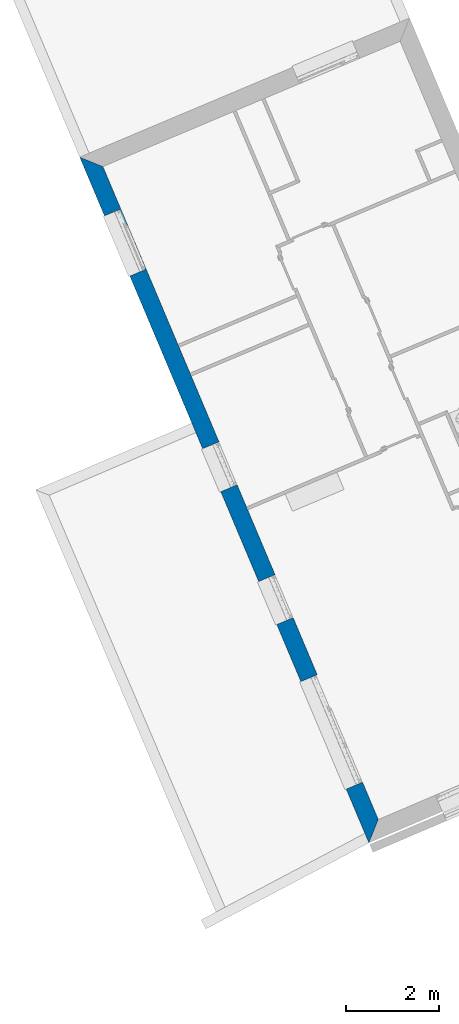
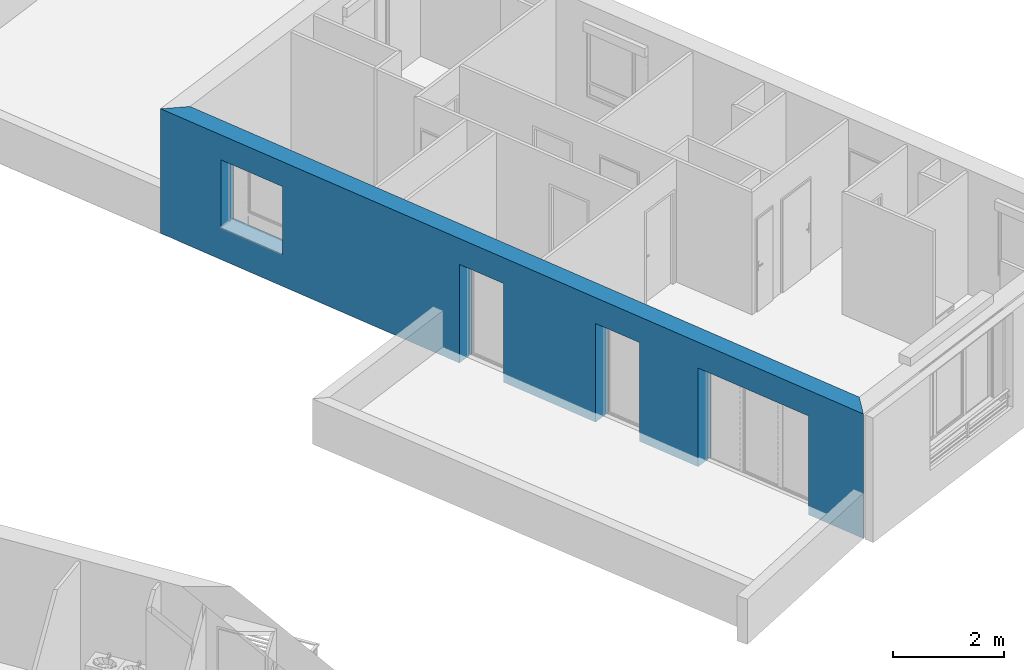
# One storey, part 32 of 121: 1 wall, 4 openings.
"""IFC2X3 building model written with IfcOpenShell, lengths in metres."""

from ifc_helpers import new_model, entity, si_unit, converted_unit, derived_unit, money_unit, direction, frame, origin_with_axes, place, context, subcontext, project, spatial, polyline, outline, extrude, faceted_brep, material, layer, layer_set, layer_usage, type_object, element, save


model = new_model("IFC2X3")

# Units and contexts
model_context = context("Model", 3, precision=1e-05, world=origin_with_axes(), true_north=direction((0.0, 1.0)))
body_context = subcontext(model_context, "Body", "Model", "MODEL_VIEW")
ifc_project = project(units=[si_unit("LENGTHUNIT", "METRE"), si_unit("AREAUNIT", "SQUARE_METRE"), si_unit("VOLUMEUNIT", "CUBIC_METRE"), converted_unit("PLANEANGLEUNIT", "DEGREE", entity("IfcPlaneAngleMeasure", 0.0174532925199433), si_unit("PLANEANGLEUNIT", "RADIAN"), dimensions=[0, 0, 0, 0, 0, 0, 0]), money_unit("CHF"), converted_unit("TIMEUNIT", "Year", entity("IfcTimeMeasure", 31557600.0), si_unit("TIMEUNIT", "SECOND"), dimensions=[0, 0, 1, 0, 0, 0, 0]), si_unit("MASSUNIT", "GRAM", prefix="KILO"), si_unit("THERMODYNAMICTEMPERATUREUNIT", "DEGREE_CELSIUS"), si_unit("LUMINOUSINTENSITYUNIT", "LUMEN"), si_unit("ENERGYUNIT", "JOULE", prefix="MEGA"), derived_unit("THERMALCONDUCTANCEUNIT", [(si_unit("POWERUNIT", "WATT"), 1), (si_unit("LENGTHUNIT", "METRE"), -1), (si_unit("THERMODYNAMICTEMPERATUREUNIT", "KELVIN"), -1)]), derived_unit("SPECIFICHEATCAPACITYUNIT", [(si_unit("ENERGYUNIT", "JOULE"), 1), (si_unit("MASSUNIT", "GRAM", prefix="KILO"), -1), (si_unit("THERMODYNAMICTEMPERATUREUNIT", "KELVIN"), -1)]), derived_unit("MASSDENSITYUNIT", [(si_unit("MASSUNIT", "GRAM", prefix="KILO"), 1), (si_unit("VOLUMEUNIT", "CUBIC_METRE"), -1)])], contexts=[model_context])

# Site, building, storey
site_placement = place(None, origin_with_axes())
site = spatial("IfcSite", under=ifc_project, at=site_placement, Name="Site", CompositionType="ELEMENT")
building_placement = place(site_placement, origin_with_axes())
building = spatial("IfcBuilding", under=site, at=building_placement, Name="Bâtiment", CompositionType="ELEMENT")
storey_placement = place(building_placement, frame((0.0, 0.0, 2.75), z_axis=(0.0, 0.0, 1.0), x_axis=(1.0, 0.0, 0.0)))
storey = spatial("IfcBuildingStorey", under=building, at=storey_placement, Name="Etage 1", CompositionType="ELEMENT", Elevation=2.75)

# Wall, openings
ifc_material_1 = material(Name="Parpaing 312445824")
ifc_layer_1 = layer(ifc_material_1, 0.22, ventilated="UNKNOWN")
ifc_material_2 = material(Name="Isolant styromousse 301821074")
ifc_layer_2 = layer(ifc_material_2, 0.16, ventilated="UNKNOWN")
ifc_layer_set = layer_set([ifc_layer_1, ifc_layer_2], Name="isol int 22+16 0836643197")
ifc_layer_usage = layer_usage(ifc_layer_set, "AXIS2", "NEGATIVE", 0.0)
wall_type = type_object("IfcWallType", Name="isol int 22+16 0836643197 380", PredefinedType="NOTDEFINED")
wall_placement = place(storey_placement, frame((9571.917965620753, -1065.802029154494, 57.7), z_axis=(0.0, 0.0, 1.0), x_axis=(-0.388566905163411, 0.9214205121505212, 0.0)))
wall = element("IfcWallStandardCase", 1, at=wall_placement, inside=storey, type_object=wall_type, material=ifc_layer_usage, Name="Mur-114", context=body_context, shape_type="SweptSolid", body=[
    extrude(outline(polyline([(0.3817093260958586, -0.3799999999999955), (15.56597725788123, -0.3800000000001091), (15.9459772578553, 0.0), (0.0, 0.0), (0.3817093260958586, -0.3799999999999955)])), origin_with_axes(), (0.0, 0.0, 1.0), 2.75),
])
opening_1_placement = place(wall_placement, frame((13.88062266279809, 0.0, 0.7000000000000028), z_axis=(0.0, 0.0, 1.0), x_axis=(1.0, 0.0, 0.0)))
element("IfcOpeningElement", 2, at=opening_1_placement, cuts=wall, Name="Fen-045", context=body_context, shape_type="Brep", body=[
    faceted_brep([(0.6999999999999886, -0.4800000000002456, 1.5), (-0.7000000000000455, -0.4800000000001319, 1.5), (-0.7000000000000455, -6.090194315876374, 1.5), (0.6999999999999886, -6.090194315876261, 1.5), (0.6999999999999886, -0.4800000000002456, 1.700000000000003), (-0.7000000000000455, -0.4800000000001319, 1.700000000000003), (-0.7000000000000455, -0.3000000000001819, 1.5), (-0.7000000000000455, -0.3000000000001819, 0.0), (-0.7000000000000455, -6.090194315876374, 0.0), (0.6999999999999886, -6.090194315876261, 0.0), (0.6999999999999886, -0.3000000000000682, 1.5), (0.6999999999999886, -0.3000000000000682, 0.0), (0.6999999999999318, -0.2200000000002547, 1.5), (0.6999999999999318, -0.2200000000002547, 1.700000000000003), (-0.6999999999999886, -0.220000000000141, 1.700000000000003), (-0.6999999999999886, -0.220000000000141, 1.5), (-0.7000000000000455, 5.71019431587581, 1.5), (-0.7000000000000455, 5.71019431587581, 0.0), (0.6999999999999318, 5.71019431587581, 0.0), (0.6999999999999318, 5.71019431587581, 1.5)], [[[0, 1, 2, 3]], [[1, 0, 4, 5]], [[1, 6, 7, 8, 2]], [[2, 8, 9, 3]], [[10, 0, 3, 9, 11]], [[0, 10, 12, 13, 4]], [[4, 13, 14, 5]], [[6, 1, 5, 14, 15]], [[6, 15, 16, 17, 7]], [[7, 11, 9, 8]], [[12, 10, 11, 18, 19]], [[12, 15, 14, 13]], [[15, 12, 19, 16]], [[19, 18, 17, 16]], [[11, 7, 17, 18]]]),
])
opening_2_placement = place(wall_placement, frame((8.666283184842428, 0.0, 0.0), z_axis=(0.0, 0.0, 1.0), x_axis=(1.0, 0.0, 0.0)))
element("IfcOpeningElement", 3, at=opening_2_placement, cuts=wall, Name="Fen-052", context=body_context, shape_type="Brep", body=[
    faceted_brep([(0.5, -0.4800000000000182, 2.18), (-0.5, -0.4800000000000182, 2.18), (-0.5000000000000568, -6.090194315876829, 2.18), (0.4999999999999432, -6.090194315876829, 2.18), (0.5, -0.4800000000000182, 2.380000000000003), (-0.5, -0.4800000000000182, 2.380000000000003), (-0.5, -0.3000000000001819, 2.18), (-0.5, -0.3000000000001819, 0.0), (-0.5000000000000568, -6.090194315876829, 0.0), (0.4999999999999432, -6.090194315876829, 0.0), (0.5, -0.3000000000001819, 2.18), (0.5, -0.3000000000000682, 0.0), (0.5, -0.2200000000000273, 2.18), (0.5, -0.2200000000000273, 2.380000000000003), (-0.5, -0.2200000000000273, 2.380000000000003), (-0.5, -0.2200000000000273, 2.18), (-0.5, 5.710194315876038, 2.18), (-0.5, 5.710194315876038, 0.0), (0.5, 5.710194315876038, 0.0), (0.5, 5.710194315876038, 2.18)], [[[0, 1, 2, 3]], [[1, 0, 4, 5]], [[1, 6, 7, 8, 2]], [[2, 8, 9, 3]], [[10, 0, 3, 9, 11]], [[0, 10, 12, 13, 4]], [[4, 13, 14, 5]], [[6, 1, 5, 14, 15]], [[6, 15, 16, 17, 7]], [[7, 11, 9, 8]], [[12, 10, 11, 18, 19]], [[12, 15, 14, 13]], [[15, 12, 19, 16]], [[19, 18, 17, 16]], [[11, 7, 17, 18]]]),
])
opening_3_placement = place(wall_placement, frame((5.576626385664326, 0.0, 0.0), z_axis=(0.0, 0.0, 1.0), x_axis=(1.0, 0.0, 0.0)))
element("IfcOpeningElement", 4, at=opening_3_placement, cuts=wall, Name="Fen-052", context=body_context, shape_type="Brep", body=[
    faceted_brep([(0.5, -0.4799999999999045, 2.18), (-0.5000000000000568, -0.4800000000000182, 2.18), (-0.5000000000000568, -6.090194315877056, 2.18), (0.4999999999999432, -6.090194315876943, 2.18), (0.5, -0.4799999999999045, 2.380000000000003), (-0.5000000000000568, -0.4800000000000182, 2.380000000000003), (-0.5, -0.3000000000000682, 2.18), (-0.5, -0.3000000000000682, 0.0), (-0.5000000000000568, -6.090194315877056, 0.0), (0.4999999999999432, -6.090194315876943, 0.0), (0.5, -0.3000000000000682, 2.18), (0.5, -0.3000000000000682, 0.0), (0.5, -0.2200000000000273, 2.18), (0.5, -0.2200000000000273, 2.380000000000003), (-0.5, -0.2200000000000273, 2.380000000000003), (-0.5, -0.2200000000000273, 2.18), (-0.5, 5.710194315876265, 2.18), (-0.5, 5.710194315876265, 0.0), (0.5, 5.710194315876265, 0.0), (0.5, 5.710194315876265, 2.18)], [[[0, 1, 2, 3]], [[1, 0, 4, 5]], [[1, 6, 7, 8, 2]], [[2, 8, 9, 3]], [[10, 0, 3, 9, 11]], [[0, 10, 12, 13, 4]], [[4, 13, 14, 5]], [[6, 1, 5, 14, 15]], [[6, 15, 16, 17, 7]], [[7, 11, 9, 8]], [[12, 10, 11, 18, 19]], [[12, 15, 14, 13]], [[15, 12, 19, 16]], [[19, 18, 17, 16]], [[11, 7, 17, 18]]]),
])
opening_4_placement = place(wall_placement, frame((2.4999145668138, 0.0, 0.0), z_axis=(0.0, 0.0, 1.0), x_axis=(1.0, 0.0, 0.0)))
element("IfcOpeningElement", 5, at=opening_4_placement, cuts=wall, Name="Fen-045", context=body_context, shape_type="Brep", body=[
    faceted_brep([(1.25, -0.4800000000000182, 2.18), (-1.25, -0.4800000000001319, 2.18), (-1.25, -6.090194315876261, 2.18), (1.25, -6.090194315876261, 2.18), (1.25, -0.4800000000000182, 2.380000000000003), (-1.25, -0.4800000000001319, 2.380000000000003), (-1.25, -0.2999999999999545, 2.18), (-1.249999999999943, -0.3000000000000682, 0.0), (-1.25, -6.090194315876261, 0.0), (1.25, -6.090194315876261, 0.0), (1.25, -0.3000000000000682, 2.18), (1.250000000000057, -0.3000000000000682, 0.0), (1.25, -0.2200000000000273, 2.18), (1.25, -0.2200000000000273, 2.380000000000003), (-1.25, -0.2200000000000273, 2.380000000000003), (-1.25, -0.2200000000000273, 2.18), (-1.25, 5.710194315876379, 2.18), (-1.25, 5.710194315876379, 0.0), (1.25, 5.710194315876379, 0.0), (1.25, 5.710194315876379, 2.18)], [[[0, 1, 2, 3]], [[1, 0, 4, 5]], [[1, 6, 7, 8, 2]], [[2, 8, 9, 3]], [[10, 0, 3, 9, 11]], [[0, 10, 12, 13, 4]], [[4, 13, 14, 5]], [[6, 1, 5, 14, 15]], [[6, 15, 16, 17, 7]], [[7, 11, 9, 8]], [[12, 10, 11, 18, 19]], [[12, 15, 14, 13]], [[15, 12, 19, 16]], [[19, 18, 17, 16]], [[11, 7, 17, 18]]]),
])

save(model, "model.ifc")
